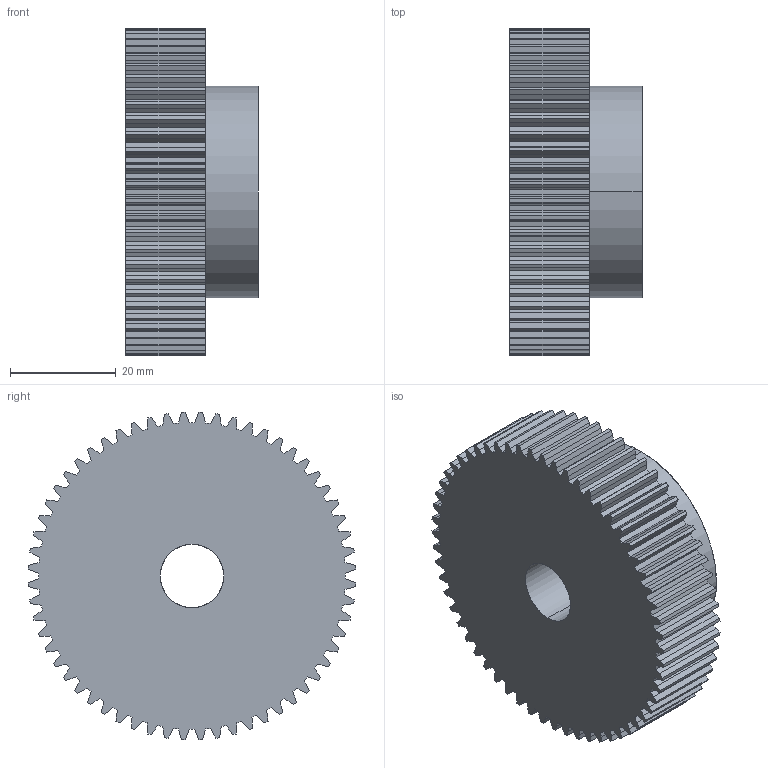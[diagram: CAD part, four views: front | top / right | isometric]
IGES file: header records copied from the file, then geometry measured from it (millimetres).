
Start section: SolidWorks IGES file using analytic representation for surfaces
Global section: file name: C:\Users\Honza\Desktop\Matis (Hotove)\Èelní ozubená kola\PM\MODUL 1\PM 26060.IGS; native system: SolidWorks 2010; preprocessor: SolidWorks 2010; author: Honza; date: 130923.153427; units: millimetre
Bounding box: 25 x 61.95 x 61.95 mm (x, y, z)
Surface area: 12928.6 mm2 (no closed solid volume)
Topology: 0 solids, 0 shells, 367 faces, 2368 edges, 2368 vertices
Faces by surface type: bspline 243, revolution 124
